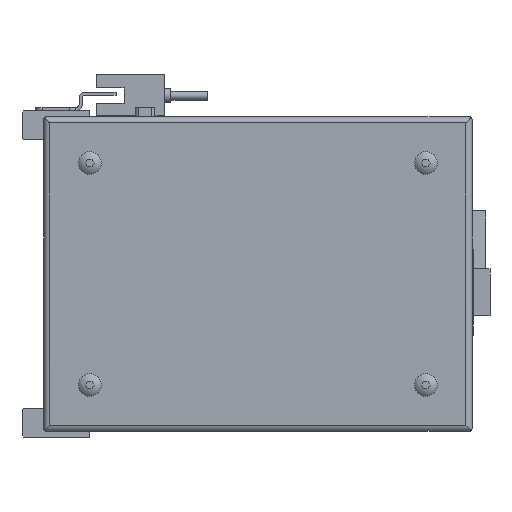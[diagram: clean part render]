
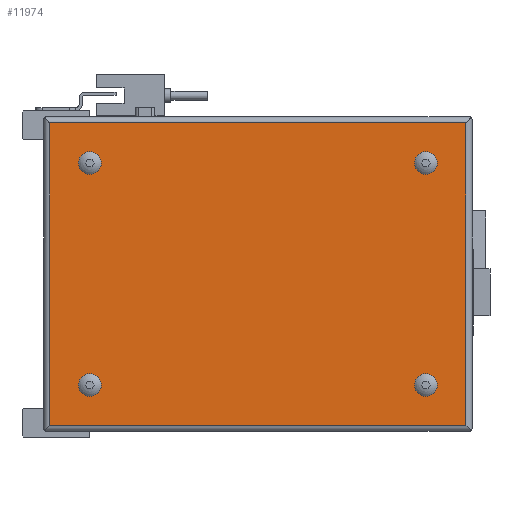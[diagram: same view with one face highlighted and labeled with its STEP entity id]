
A CAD part, left-side view. The second image highlights one B-rep face of the part: STEP entity #11974.
In plain terms, the highlighted planar face has unit normal (-1, 0, 0).
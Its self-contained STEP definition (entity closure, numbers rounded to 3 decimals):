
#332=PLANE('',#12843);
#1042=LINE('',#18187,#2307);
#1043=LINE('',#18190,#2308);
#1044=LINE('',#18192,#2309);
#1045=LINE('',#18194,#2310);
#2307=VECTOR('',#14660,1000.);
#2308=VECTOR('',#14661,1000.);
#2309=VECTOR('',#14662,1000.);
#2310=VECTOR('',#14663,1000.);
#4147=ORIENTED_EDGE('',*,*,#7136,.F.);
#4148=ORIENTED_EDGE('',*,*,#7137,.F.);
#4149=ORIENTED_EDGE('',*,*,#7138,.F.);
#4150=ORIENTED_EDGE('',*,*,#7139,.F.);
#4151=ORIENTED_EDGE('',*,*,#7140,.T.);
#4152=ORIENTED_EDGE('',*,*,#7141,.F.);
#4153=ORIENTED_EDGE('',*,*,#7142,.F.);
#4154=ORIENTED_EDGE('',*,*,#7143,.T.);
#7136=EDGE_CURVE('',#8722,#8722,#9666,.F.);
#7137=EDGE_CURVE('',#8723,#8723,#9667,.F.);
#7138=EDGE_CURVE('',#8724,#8724,#9668,.F.);
#7139=EDGE_CURVE('',#8725,#8725,#9669,.F.);
#7140=EDGE_CURVE('',#8726,#8727,#1042,.F.);
#7141=EDGE_CURVE('',#8728,#8727,#1043,.T.);
#7142=EDGE_CURVE('',#8729,#8728,#1044,.F.);
#7143=EDGE_CURVE('',#8729,#8726,#1045,.T.);
#8722=VERTEX_POINT('',#18180);
#8723=VERTEX_POINT('',#18182);
#8724=VERTEX_POINT('',#18184);
#8725=VERTEX_POINT('',#18186);
#8726=VERTEX_POINT('',#18188);
#8727=VERTEX_POINT('',#18189);
#8728=VERTEX_POINT('',#18191);
#8729=VERTEX_POINT('',#18193);
#9666=CIRCLE('',#12844,3.7);
#9667=CIRCLE('',#12845,3.7);
#9668=CIRCLE('',#12846,3.7);
#9669=CIRCLE('',#12847,3.7);
#10179=EDGE_LOOP('',(#4147));
#10180=EDGE_LOOP('',(#4148));
#10181=EDGE_LOOP('',(#4149));
#10182=EDGE_LOOP('',(#4150));
#10183=EDGE_LOOP('',(#4151,#4152,#4153,#4154));
#11014=FACE_BOUND('',#10179,.T.);
#11015=FACE_BOUND('',#10180,.T.);
#11016=FACE_BOUND('',#10181,.T.);
#11017=FACE_BOUND('',#10182,.T.);
#11018=FACE_BOUND('',#10183,.T.);
#11974=ADVANCED_FACE('',(#11014,#11015,#11016,#11017,#11018),#332,.F.);
#12843=AXIS2_PLACEMENT_3D('',#18178,#14650,#14651);
#12844=AXIS2_PLACEMENT_3D('',#18179,#14652,#14653);
#12845=AXIS2_PLACEMENT_3D('',#18181,#14654,#14655);
#12846=AXIS2_PLACEMENT_3D('',#18183,#14656,#14657);
#12847=AXIS2_PLACEMENT_3D('',#18185,#14658,#14659);
#14650=DIRECTION('',(1.,0.,0.));
#14651=DIRECTION('',(0.,0.,-1.));
#14652=DIRECTION('',(1.,0.,0.));
#14653=DIRECTION('',(0.,0.,-1.));
#14654=DIRECTION('',(1.,0.,0.));
#14655=DIRECTION('',(0.,0.,-1.));
#14656=DIRECTION('',(1.,0.,0.));
#14657=DIRECTION('',(0.,0.,-1.));
#14658=DIRECTION('',(1.,0.,0.));
#14659=DIRECTION('',(0.,0.,-1.));
#14660=DIRECTION('',(0.,-1.,0.));
#14661=DIRECTION('',(0.,0.,1.));
#14662=DIRECTION('',(0.,-1.,0.));
#14663=DIRECTION('',(0.,0.,1.));
#18178=CARTESIAN_POINT('',(-52.,-75.,50.));
#18179=CARTESIAN_POINT('',(-52.,-61.,36.));
#18180=CARTESIAN_POINT('',(-52.,-61.,32.3));
#18181=CARTESIAN_POINT('',(-52.,-61.,-36.));
#18182=CARTESIAN_POINT('',(-52.,-61.,-39.7));
#18183=CARTESIAN_POINT('',(-52.,48.,36.));
#18184=CARTESIAN_POINT('',(-52.,48.,32.3));
#18185=CARTESIAN_POINT('',(-52.,48.,-36.));
#18186=CARTESIAN_POINT('',(-52.,48.,-39.7));
#18187=CARTESIAN_POINT('',(-52.,139.,49.));
#18188=CARTESIAN_POINT('',(-52.,-74.,49.));
#18189=CARTESIAN_POINT('',(-52.,61.,49.));
#18190=CARTESIAN_POINT('',(-52.,61.,-102.));
#18191=CARTESIAN_POINT('',(-52.,61.,-49.));
#18192=CARTESIAN_POINT('',(-52.,139.,-49.));
#18193=CARTESIAN_POINT('',(-52.,-74.,-49.));
#18194=CARTESIAN_POINT('',(-52.,-74.,-102.));
